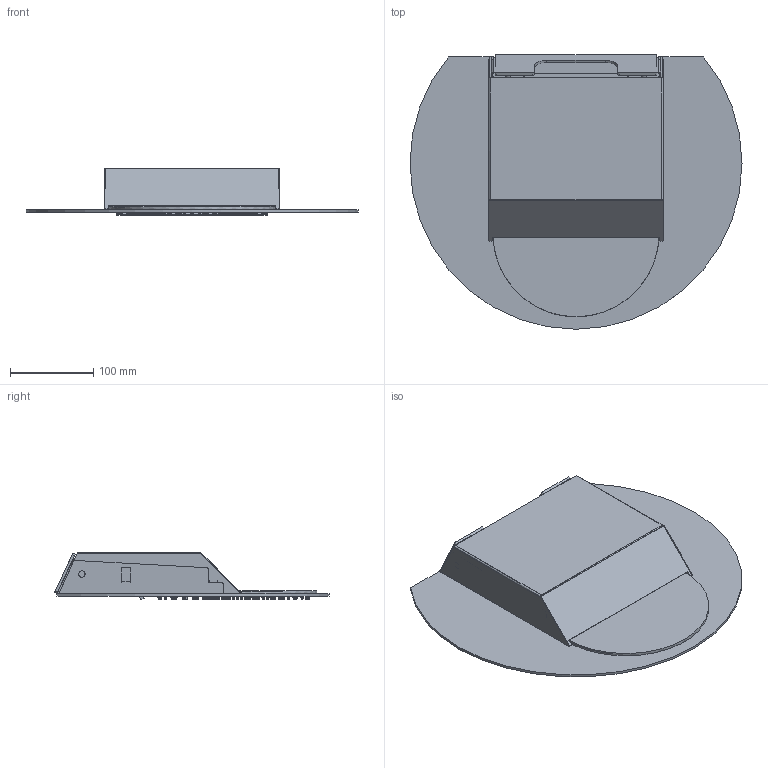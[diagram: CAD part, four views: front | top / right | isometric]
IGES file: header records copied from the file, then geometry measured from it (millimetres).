
Start section:  PTC IGES file: 8960721_sw0001.igs
Global section: file name: 8960721_sw0001.igs; native system: Creo Parametric by PTC Inc.; preprocessor: 2018100; author: carloff; organization: Unknown; date: 20200629.134647; units: millimetre
Bounding box: 400 x 330.7 x 57.79 mm (x, y, z)
Surface area: 454301.1 mm2 (no closed solid volume)
Topology: 0 solids, 0 shells, 1774 faces, 7644 edges, 7644 vertices
Faces by surface type: revolution 1107, bspline 667
